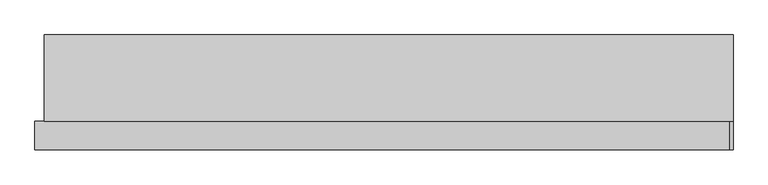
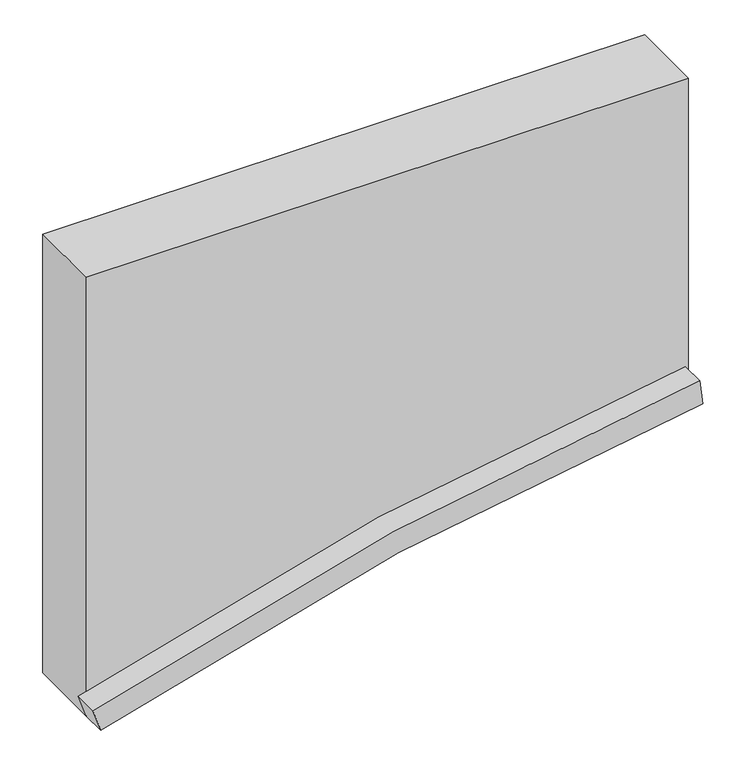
"""IFC4 building model written with IfcOpenShell, lengths in millimetres: proxy geometry, 走廊板 : h=300mm."""

from ifc_helpers import new_model, si_unit, point, frame, frame_2d, origin, place, context, project, spatial, polyline, circle_curve, trimmed, segment, composite_curve, outline, extrude, source, transform, mapped, element, save


def generic_models_8d5e0f0c(model_context):
    return source(origin(), model_context, "Body", "SweptSolid", [
        extrude(outline(composite_curve([segment(polyline([(-1311.4739289, 2400.0), (-1212.1149247, 2388.6956522)]), True, "CONTINUOUS"), segment(trimmed(circle_curve(frame_2d((-12737.7594146, 3700.0)), 11600.0), [point((-1212.1149247, 2388.6956522))], [point((-1754.5505082, -32.173913))], False, "CARTESIAN"), True, "CONTINUOUS"), segment(polyline([(-1754.5505082, -32.173913), (-1849.2333436, 0.0)]), True, "CONTINUOUS"), segment(trimmed(circle_curve(frame_2d((-12737.7594146, 3700.0)), 11500.0), [point((-1849.2333436, 0.0))], [point((-1311.4739289, 2400.0))], True, "CARTESIAN"), True, "CONTINUOUS")], self_intersect=False)), frame((0.0, -250.0, 0.0), z_axis=(0.0, 1.0, 0.0), x_axis=(0.0, 0.0, 1.0)), (0.0, 0.0, 1.0), 100.0),
        extrude(outline(composite_curve([segment(polyline([(0.0, 2400.0), (0.0, 0.0), (-1849.2333436, 0.0)]), True, "CONTINUOUS"), segment(trimmed(circle_curve(frame_2d((-12737.7594146, 3700.0)), 11500.0), [point((-1849.2333436, 0.0))], [point((-1311.4739289, 2400.0))], True, "CARTESIAN"), True, "CONTINUOUS"), segment(polyline([(-1311.4739289, 2400.0), (0.0, 2400.0)]), True, "CONTINUOUS")], self_intersect=False)), frame((0.0, -150.0, 0.0), z_axis=(0.0, 1.0, 0.0), x_axis=(0.0, 0.0, 1.0)), (0.0, 0.0, 1.0), 300.0),
    ])


if __name__ == "__main__":
    model = new_model("IFC4")
    model_context = context("Model", 3, world=origin())
    ifc_project = project(units=[si_unit("LENGTHUNIT", "METRE", prefix="MILLI")], contexts=[model_context])
    site = spatial("IfcSite", under=ifc_project)
    building = spatial("IfcBuilding", under=site)
    placement = place(None, origin())
    generic_models_shape = generic_models_8d5e0f0c(model_context)
    element("IfcBuildingElementProxy", 1, Name="走廊板 : h=300mm", ObjectType="走廊板 : h=300mm", at=placement, inside=building, context=model_context, shape_type="MappedRepresentation", body=[
        mapped(generic_models_shape, transform((0.0, 0.0, 0.0), x_axis=(1.0, 0.0, 0.0), y_axis=(0.0, 1.0, 0.0), z_axis=(0.0, 0.0, 1.0))),
    ])
    save(model, "model.ifc")
